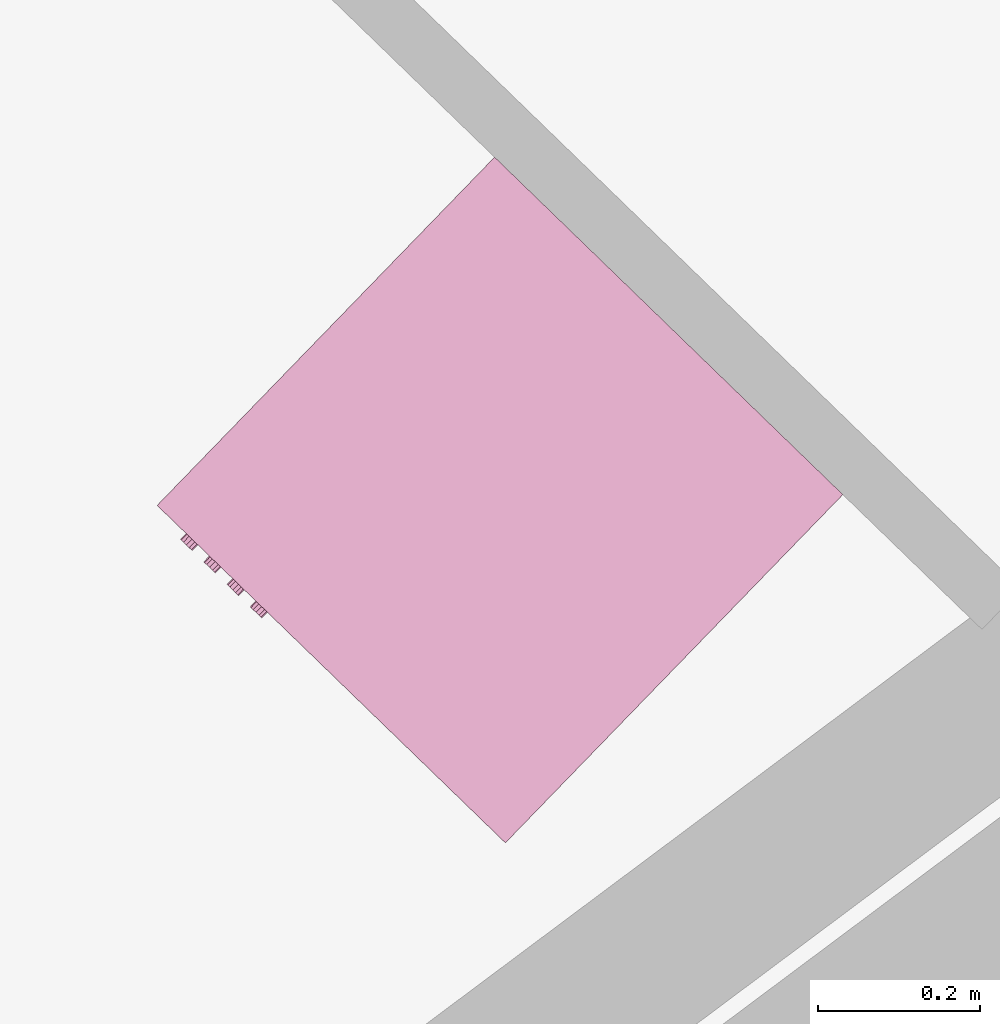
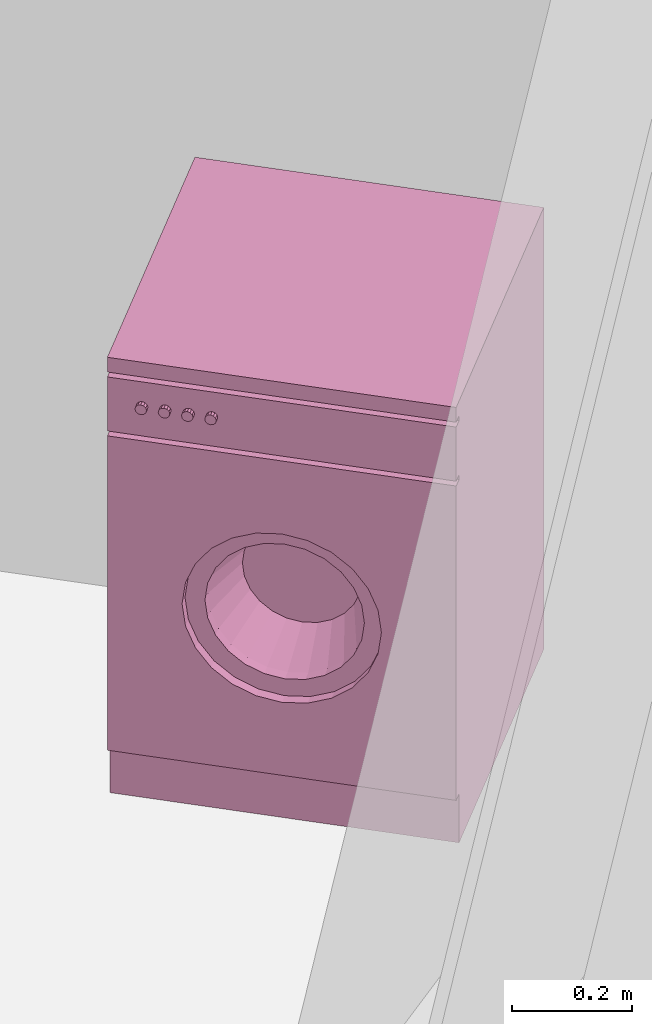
# One storey, part 150 of 195: 1 furnishing.
"""IFC2X3 building model written with IfcOpenShell, lengths in metres."""

from ifc_helpers import new_model, entity, si_unit, converted_unit, derived_unit, money_unit, direction, frame, origin_with_axes, place, context, subcontext, project, spatial, open_shell, faceted_brep, surface_model, source, transform, mapped, type_object, element, save


model = new_model("IFC2X3")

# Units and contexts
model_context = context("Model", 3, precision=1e-05, world=origin_with_axes(), true_north=direction((0.0, 1.0)))
body_context = subcontext(model_context, "Body", "Model", "MODEL_VIEW")
ifc_project = project(units=[si_unit("LENGTHUNIT", "METRE"), si_unit("AREAUNIT", "SQUARE_METRE"), si_unit("VOLUMEUNIT", "CUBIC_METRE"), converted_unit("PLANEANGLEUNIT", "DEGREE", entity("IfcPlaneAngleMeasure", 0.0174532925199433), si_unit("PLANEANGLEUNIT", "RADIAN"), dimensions=[0, 0, 0, 0, 0, 0, 0]), money_unit("CHF"), converted_unit("TIMEUNIT", "Year", entity("IfcTimeMeasure", 31557600.0), si_unit("TIMEUNIT", "SECOND"), dimensions=[0, 0, 1, 0, 0, 0, 0]), si_unit("MASSUNIT", "GRAM", prefix="KILO"), si_unit("THERMODYNAMICTEMPERATUREUNIT", "DEGREE_CELSIUS"), si_unit("LUMINOUSINTENSITYUNIT", "LUMEN"), si_unit("ENERGYUNIT", "JOULE", prefix="MEGA"), derived_unit("THERMALCONDUCTANCEUNIT", [(si_unit("POWERUNIT", "WATT"), 1), (si_unit("LENGTHUNIT", "METRE"), -1), (si_unit("THERMODYNAMICTEMPERATUREUNIT", "KELVIN"), -1)]), derived_unit("SPECIFICHEATCAPACITYUNIT", [(si_unit("ENERGYUNIT", "JOULE"), 1), (si_unit("MASSUNIT", "GRAM", prefix="KILO"), -1), (si_unit("THERMODYNAMICTEMPERATUREUNIT", "KELVIN"), -1)]), derived_unit("MASSDENSITYUNIT", [(si_unit("MASSUNIT", "GRAM", prefix="KILO"), 1), (si_unit("VOLUMEUNIT", "CUBIC_METRE"), -1)])], contexts=[model_context])

# Site, building, storey
site_placement = place(None, origin_with_axes())
site = spatial("IfcSite", under=ifc_project, at=site_placement, Name="Site", CompositionType="ELEMENT")
building_placement = place(site_placement, origin_with_axes())
building = spatial("IfcBuilding", under=site, at=building_placement, Name="Bâtiment", CompositionType="ELEMENT")
storey_placement = place(building_placement, origin_with_axes())
storey = spatial("IfcBuildingStorey", under=building, at=storey_placement, Name="rdc", CompositionType="ELEMENT", Elevation=0.0)

# Furnishing
furnishing_element_type = type_object("IfcFurnishingElementType", Name="Machine à laver")
shared_shape = source(origin_with_axes(), body_context, "Body", "SurfaceModel", [
    faceted_brep([(0.0, 0.02, 0.1), (0.6, 0.02, 0.1), (0.6, 0.0, 0.1), (0.0, 0.0, 0.1), (0.0, 0.02000000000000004, 0.74), (0.6, 0.02000000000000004, 0.74), (0.4714285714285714, 0.02000000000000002, 0.42), (0.4655872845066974, 0.02000000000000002, 0.4643689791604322), (0.448461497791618, 0.02000000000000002, 0.5057142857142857), (0.4212183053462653, 0.02000000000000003, 0.5412183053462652), (0.3857142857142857, 0.02000000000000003, 0.568461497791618), (0.3443689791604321, 0.02000000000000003, 0.5855872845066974), (0.3, 0.02000000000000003, 0.5914285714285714), (0.2556310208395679, 0.02000000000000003, 0.5855872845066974), (0.2142857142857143, 0.02000000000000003, 0.5684614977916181), (0.1787816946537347, 0.02000000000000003, 0.5412183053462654), (0.1515385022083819, 0.02000000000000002, 0.5057142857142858), (0.1344127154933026, 0.02000000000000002, 0.4643689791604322), (0.1285714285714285, 0.02000000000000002, 0.42), (0.1344127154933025, 0.02000000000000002, 0.3756310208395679), (0.1515385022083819, 0.02000000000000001, 0.3342857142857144), (0.1787816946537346, 0.02000000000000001, 0.2987816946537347), (0.2142857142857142, 0.02000000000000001, 0.2715385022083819), (0.2556310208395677, 0.02000000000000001, 0.2544127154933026), (0.2999999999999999, 0.02000000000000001, 0.2485714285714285), (0.344368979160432, 0.02000000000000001, 0.2544127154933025), (0.3857142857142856, 0.02000000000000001, 0.2715385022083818), (0.4212183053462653, 0.02000000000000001, 0.2987816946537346), (0.448461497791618, 0.02000000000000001, 0.3342857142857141), (0.4655872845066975, 0.02000000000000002, 0.3756310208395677), (0.6, 0.0, 0.74), (0.0, 0.0, 0.74), (0.4714285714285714, 0.0, 0.42), (0.4655872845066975, 0.0, 0.3756310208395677), (0.448461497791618, 0.0, 0.3342857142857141), (0.4212183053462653, 0.0, 0.2987816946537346), (0.3857142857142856, 0.0, 0.2715385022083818), (0.344368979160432, 0.0, 0.2544127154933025), (0.2999999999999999, 0.0, 0.2485714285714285), (0.2556310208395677, 0.0, 0.2544127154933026), (0.2142857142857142, 0.0, 0.2715385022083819), (0.1787816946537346, 0.0, 0.2987816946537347), (0.1515385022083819, 0.0, 0.3342857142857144), (0.1344127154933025, 0.0, 0.3756310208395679), (0.1285714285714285, 0.0, 0.42), (0.1344127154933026, 0.0, 0.4643689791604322), (0.1515385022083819, 0.0, 0.5057142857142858), (0.1787816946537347, 0.0, 0.5412183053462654), (0.2142857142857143, 0.0, 0.5684614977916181), (0.2556310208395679, 0.0, 0.5855872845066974), (0.3, 0.0, 0.5914285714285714), (0.3443689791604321, 0.0, 0.5855872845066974), (0.3857142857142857, 0.0, 0.568461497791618), (0.4212183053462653, 0.0, 0.5412183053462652), (0.448461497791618, 0.0, 0.5057142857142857), (0.4655872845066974, 0.0, 0.4643689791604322)], [[[0, 1, 2, 3]], [[0, 4, 5, 1], [6, 7, 8, 9, 10, 11, 12, 13, 14, 15, 16, 17, 18, 19, 20, 21, 22, 23, 24, 25, 26, 27, 28, 29]], [[1, 5, 30, 2]], [[3, 2, 30, 31], [32, 33, 34, 35, 36, 37, 38, 39, 40, 41, 42, 43, 44, 45, 46, 47, 48, 49, 50, 51, 52, 53, 54, 55]], [[4, 0, 3, 31]], [[5, 4, 31, 30]], [[7, 6, 32, 55]], [[8, 7, 55, 54]], [[9, 8, 54, 53]], [[10, 9, 53, 52]], [[11, 10, 52, 51]], [[12, 11, 51, 50]], [[13, 12, 50, 49]], [[14, 13, 49, 48]], [[15, 14, 48, 47]], [[16, 15, 47, 46]], [[17, 16, 46, 45]], [[18, 17, 45, 44]], [[19, 18, 44, 43]], [[20, 19, 43, 42]], [[21, 20, 42, 41]], [[22, 21, 41, 40]], [[23, 22, 40, 39]], [[24, 23, 39, 38]], [[25, 24, 38, 37]], [[26, 25, 37, 36]], [[27, 26, 36, 35]], [[28, 27, 35, 34]], [[29, 28, 34, 33]], [[6, 29, 33, 32]]]),
    faceted_brep([(0.4714285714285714, 0.04000000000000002, 0.42), (0.4655872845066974, 0.04000000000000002, 0.4643689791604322), (0.4655872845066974, 0.02000000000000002, 0.4643689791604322), (0.4714285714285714, 0.02000000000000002, 0.42), (0.4655872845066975, 0.04000000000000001, 0.3756310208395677), (0.448461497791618, 0.04000000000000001, 0.3342857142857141), (0.4212183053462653, 0.04000000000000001, 0.2987816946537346), (0.3857142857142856, 0.04000000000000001, 0.2715385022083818), (0.344368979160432, 0.04000000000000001, 0.2544127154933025), (0.2999999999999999, 0.04000000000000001, 0.2485714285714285), (0.2556310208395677, 0.04000000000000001, 0.2544127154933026), (0.2142857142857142, 0.04000000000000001, 0.2715385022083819), (0.1787816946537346, 0.04000000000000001, 0.2987816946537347), (0.1515385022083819, 0.04000000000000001, 0.3342857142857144), (0.1344127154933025, 0.04000000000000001, 0.3756310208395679), (0.1285714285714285, 0.04000000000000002, 0.42), (0.1344127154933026, 0.04000000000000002, 0.4643689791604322), (0.1515385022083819, 0.04000000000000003, 0.5057142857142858), (0.1787816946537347, 0.04000000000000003, 0.5412183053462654), (0.2142857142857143, 0.04000000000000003, 0.5684614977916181), (0.2556310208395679, 0.04000000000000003, 0.5855872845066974), (0.3, 0.04000000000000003, 0.5914285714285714), (0.3443689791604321, 0.04000000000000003, 0.5855872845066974), (0.3857142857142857, 0.04000000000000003, 0.568461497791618), (0.4212183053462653, 0.04000000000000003, 0.5412183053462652), (0.448461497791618, 0.04000000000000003, 0.5057142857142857), (0.4371428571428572, 0.04000000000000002, 0.42), (0.432469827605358, 0.04000000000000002, 0.4554951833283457), (0.4187691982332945, 0.04000000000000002, 0.4885714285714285), (0.3969746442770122, 0.04000000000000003, 0.5169746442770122), (0.3685714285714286, 0.04000000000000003, 0.5387691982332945), (0.3354951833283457, 0.04000000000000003, 0.552469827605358), (0.3, 0.04000000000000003, 0.5571428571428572), (0.2645048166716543, 0.04000000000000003, 0.552469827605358), (0.2314285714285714, 0.04000000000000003, 0.5387691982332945), (0.2030253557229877, 0.04000000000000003, 0.5169746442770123), (0.1812308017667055, 0.04000000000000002, 0.4885714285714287), (0.167530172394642, 0.04000000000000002, 0.4554951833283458), (0.1628571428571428, 0.04000000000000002, 0.42), (0.167530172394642, 0.04000000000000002, 0.3845048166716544), (0.1812308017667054, 0.04000000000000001, 0.3514285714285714), (0.2030253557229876, 0.04000000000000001, 0.3230253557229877), (0.2314285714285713, 0.04000000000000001, 0.3012308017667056), (0.2645048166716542, 0.04000000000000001, 0.287530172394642), (0.2999999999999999, 0.04000000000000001, 0.2828571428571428), (0.3354951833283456, 0.04000000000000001, 0.287530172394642), (0.3685714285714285, 0.04000000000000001, 0.3012308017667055), (0.3969746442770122, 0.04000000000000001, 0.3230253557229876), (0.4187691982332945, 0.04000000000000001, 0.3514285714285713), (0.432469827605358, 0.04000000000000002, 0.3845048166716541), (0.448461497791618, 0.02000000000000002, 0.5057142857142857), (0.4212183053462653, 0.02000000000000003, 0.5412183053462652), (0.3857142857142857, 0.02000000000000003, 0.568461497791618), (0.3443689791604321, 0.02000000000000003, 0.5855872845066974), (0.3, 0.02000000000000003, 0.5914285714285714), (0.2556310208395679, 0.02000000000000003, 0.5855872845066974), (0.2142857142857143, 0.02000000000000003, 0.5684614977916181), (0.1787816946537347, 0.02000000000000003, 0.5412183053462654), (0.1515385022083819, 0.02000000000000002, 0.5057142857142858), (0.1344127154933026, 0.02000000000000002, 0.4643689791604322), (0.1285714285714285, 0.02000000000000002, 0.42), (0.1344127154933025, 0.02000000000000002, 0.3756310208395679), (0.1515385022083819, 0.02000000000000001, 0.3342857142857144), (0.1787816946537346, 0.02000000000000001, 0.2987816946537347), (0.2142857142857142, 0.02000000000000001, 0.2715385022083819), (0.2556310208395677, 0.02000000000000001, 0.2544127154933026), (0.2999999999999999, 0.02000000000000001, 0.2485714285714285), (0.344368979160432, 0.02000000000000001, 0.2544127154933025), (0.3857142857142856, 0.02000000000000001, 0.2715385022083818), (0.4212183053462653, 0.02000000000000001, 0.2987816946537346), (0.448461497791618, 0.02000000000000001, 0.3342857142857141), (0.4655872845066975, 0.02000000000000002, 0.3756310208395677), (0.4371428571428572, 0.02000000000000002, 0.42), (0.432469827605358, 0.02000000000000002, 0.3845048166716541), (0.4187691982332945, 0.02000000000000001, 0.3514285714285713), (0.3969746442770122, 0.02000000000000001, 0.3230253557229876), (0.3685714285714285, 0.02000000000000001, 0.3012308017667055), (0.3354951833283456, 0.02000000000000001, 0.287530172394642), (0.2999999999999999, 0.02000000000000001, 0.2828571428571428), (0.2645048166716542, 0.02000000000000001, 0.287530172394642), (0.2314285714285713, 0.02000000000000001, 0.3012308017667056), (0.2030253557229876, 0.02000000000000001, 0.3230253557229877), (0.1812308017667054, 0.02000000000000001, 0.3514285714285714), (0.167530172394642, 0.02000000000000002, 0.3845048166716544), (0.1628571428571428, 0.02000000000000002, 0.42), (0.167530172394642, 0.02000000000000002, 0.4554951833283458), (0.1812308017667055, 0.02000000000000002, 0.4885714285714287), (0.2030253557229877, 0.02000000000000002, 0.5169746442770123), (0.2314285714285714, 0.02000000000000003, 0.5387691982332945), (0.2645048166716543, 0.02000000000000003, 0.552469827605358), (0.3, 0.02000000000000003, 0.5571428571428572), (0.3354951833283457, 0.02000000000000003, 0.552469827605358), (0.3685714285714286, 0.02000000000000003, 0.5387691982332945), (0.3969746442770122, 0.02000000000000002, 0.5169746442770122), (0.4187691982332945, 0.02000000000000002, 0.4885714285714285), (0.432469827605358, 0.02000000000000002, 0.4554951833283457)], [[[0, 1, 2, 3]], [[0, 4, 5, 6, 7, 8, 9, 10, 11, 12, 13, 14, 15, 16, 17, 18, 19, 20, 21, 22, 23, 24, 25, 1], [26, 27, 28, 29, 30, 31, 32, 33, 34, 35, 36, 37, 38, 39, 40, 41, 42, 43, 44, 45, 46, 47, 48, 49]], [[1, 25, 50, 2]], [[3, 2, 50, 51, 52, 53, 54, 55, 56, 57, 58, 59, 60, 61, 62, 63, 64, 65, 66, 67, 68, 69, 70, 71], [72, 73, 74, 75, 76, 77, 78, 79, 80, 81, 82, 83, 84, 85, 86, 87, 88, 89, 90, 91, 92, 93, 94, 95]], [[4, 0, 3, 71]], [[5, 4, 71, 70]], [[6, 5, 70, 69]], [[7, 6, 69, 68]], [[8, 7, 68, 67]], [[9, 8, 67, 66]], [[10, 9, 66, 65]], [[11, 10, 65, 64]], [[12, 11, 64, 63]], [[13, 12, 63, 62]], [[14, 13, 62, 61]], [[15, 14, 61, 60]], [[16, 15, 60, 59]], [[17, 16, 59, 58]], [[18, 17, 58, 57]], [[19, 18, 57, 56]], [[20, 19, 56, 55]], [[21, 20, 55, 54]], [[22, 21, 54, 53]], [[23, 22, 53, 52]], [[24, 23, 52, 51]], [[25, 24, 51, 50]], [[27, 26, 72, 95]], [[28, 27, 95, 94]], [[29, 28, 94, 93]], [[30, 29, 93, 92]], [[31, 30, 92, 91]], [[32, 31, 91, 90]], [[33, 32, 90, 89]], [[34, 33, 89, 88]], [[35, 34, 88, 87]], [[36, 35, 87, 86]], [[37, 36, 86, 85]], [[38, 37, 85, 84]], [[39, 38, 84, 83]], [[40, 39, 83, 82]], [[41, 40, 82, 81]], [[42, 41, 81, 80]], [[43, 42, 80, 79]], [[44, 43, 79, 78]], [[45, 44, 78, 77]], [[46, 45, 77, 76]], [[47, 46, 76, 75]], [[48, 47, 75, 74]], [[49, 48, 74, 73]], [[26, 49, 73, 72]]]),
    surface_model("IfcShellBasedSurfaceModel", [(0.2645048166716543, 0.03999999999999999, 0.552469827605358), (0.3, 0.03999999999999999, 0.5571428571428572), (0.3, 0.14, 0.5228571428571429), (0.2733786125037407, 0.14, 0.5193523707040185), (0.3354951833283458, 0.03999999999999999, 0.552469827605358), (0.3266213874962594, 0.14, 0.5193523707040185), (0.3514285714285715, 0.14, 0.5090768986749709), (0.3727309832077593, 0.14, 0.4927309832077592), (0.3890768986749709, 0.14, 0.4714285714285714), (0.3993523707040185, 0.14, 0.4466213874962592), (0.4028571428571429, 0.14, 0.42), (0.3993523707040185, 0.14, 0.3933786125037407), (0.3890768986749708, 0.14, 0.3685714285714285), (0.3727309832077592, 0.14, 0.3472690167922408), (0.3514285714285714, 0.14, 0.3309231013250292), (0.3266213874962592, 0.14, 0.3206476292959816), (0.2999999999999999, 0.14, 0.3171428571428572), (0.2733786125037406, 0.14, 0.3206476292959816), (0.2485714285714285, 0.14, 0.3309231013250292), (0.2272690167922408, 0.14, 0.3472690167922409), (0.2109231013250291, 0.14, 0.3685714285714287), (0.2006476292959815, 0.14, 0.3933786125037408), (0.1971428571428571, 0.14, 0.4200000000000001), (0.2006476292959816, 0.14, 0.4466213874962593), (0.2109231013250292, 0.14, 0.4714285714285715), (0.2272690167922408, 0.14, 0.4927309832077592), (0.2485714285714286, 0.14, 0.5090768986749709), (0.2314285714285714, 0.03999999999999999, 0.5387691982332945), (0.3685714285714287, 0.03999999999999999, 0.5387691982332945), (0.3969746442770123, 0.03999999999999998, 0.5169746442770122), (0.4187691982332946, 0.03999999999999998, 0.4885714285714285), (0.432469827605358, 0.03999999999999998, 0.4554951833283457), (0.4371428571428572, 0.03999999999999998, 0.4199999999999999), (0.432469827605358, 0.03999999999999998, 0.3845048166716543), (0.4187691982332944, 0.03999999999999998, 0.3514285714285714), (0.3969746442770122, 0.03999999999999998, 0.3230253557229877), (0.3685714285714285, 0.03999999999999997, 0.3012308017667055), (0.3354951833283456, 0.03999999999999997, 0.2875301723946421), (0.2999999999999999, 0.03999999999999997, 0.2828571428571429), (0.2645048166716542, 0.03999999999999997, 0.2875301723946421), (0.2314285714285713, 0.03999999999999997, 0.3012308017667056), (0.2030253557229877, 0.03999999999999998, 0.3230253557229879), (0.1812308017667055, 0.03999999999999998, 0.3514285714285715), (0.167530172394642, 0.03999999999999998, 0.3845048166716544), (0.1628571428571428, 0.03999999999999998, 0.4200000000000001), (0.167530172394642, 0.03999999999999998, 0.4554951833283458), (0.1812308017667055, 0.03999999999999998, 0.4885714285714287), (0.2030253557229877, 0.03999999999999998, 0.5169746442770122)], [open_shell([[[0, 1, 2, 3]], [[1, 4, 5, 2]], [[2, 5, 6, 7, 8, 9, 10, 11, 12, 13, 14, 15, 16, 17, 18, 19, 20, 21, 22, 23, 24, 25, 26, 3]], [[27, 0, 3, 26]], [[4, 28, 6, 5]], [[28, 29, 7, 6]], [[29, 30, 8, 7]], [[30, 31, 9, 8]], [[31, 32, 10, 9]], [[32, 33, 11, 10]], [[33, 34, 12, 11]], [[34, 35, 13, 12]], [[35, 36, 14, 13]], [[36, 37, 15, 14]], [[37, 38, 16, 15]], [[38, 39, 17, 16]], [[39, 40, 18, 17]], [[40, 41, 19, 18]], [[41, 42, 20, 19]], [[42, 43, 21, 20]], [[43, 44, 22, 21]], [[44, 45, 23, 22]], [[45, 46, 24, 23]], [[46, 47, 25, 24]], [[47, 27, 26, 25]]])]),
    surface_model("IfcShellBasedSurfaceModel", [(0.0, 0.02, 0.1), (0.0, 0.02000000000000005, 0.87), (0.0, 0.6, 0.87), (0.0, 0.6, 0.09999999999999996)], [open_shell([[[0, 1, 2, 3]]])]),
    surface_model("IfcShellBasedSurfaceModel", [(0.6, 0.01999999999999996, 0.1), (0.6, 0.02000000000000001, 0.87), (0.6, 0.5999999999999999, 0.87), (0.6, 0.5999999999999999, 0.09999999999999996)], [open_shell([[[0, 1, 2, 3]]])]),
    surface_model("IfcShellBasedSurfaceModel", [(0.0, 0.6, 0.1), (0.0, 0.6, 0.87), (0.6, 0.6, 0.87), (0.6, 0.6, 0.1)], [open_shell([[[0, 1, 2, 3]]])]),
    faceted_brep([(0.0, 0.02, 0.0), (0.6, 0.02, 0.0), (0.6, 0.02, 0.1), (0.0, 0.02, 0.1), (0.0, 0.6, 0.0), (0.6, 0.6, 0.0), (0.6, 0.6, 0.1), (0.0, 0.6, 0.1)], [[[0, 1, 2, 3]], [[0, 4, 5, 1]], [[1, 5, 6, 2]], [[3, 2, 6, 7]], [[4, 0, 3, 7]], [[5, 4, 7, 6]]]),
    faceted_brep([(0.0, 0.02, 0.75), (0.6, 0.02, 0.75), (0.6, 0.0, 0.75), (0.0, 0.0, 0.75), (0.0, 0.02000000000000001, 0.86), (0.6, 0.02000000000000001, 0.86), (0.6, 0.0, 0.86), (0.0, 0.0, 0.86)], [[[0, 1, 2, 3]], [[0, 4, 5, 1]], [[1, 5, 6, 2]], [[3, 2, 6, 7]], [[4, 0, 3, 7]], [[5, 4, 7, 6]]]),
    surface_model("IfcShellBasedSurfaceModel", [(0.0, 0.02, 0.74), (0.0, 0.02000000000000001, 0.87), (0.6, 0.02000000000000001, 0.87), (0.6, 0.02, 0.74)], [open_shell([[[0, 1, 2, 3]]])]),
    faceted_brep([(0.0, 0.0, 0.87), (0.6, 0.0, 0.87), (0.6, 0.0, 0.9), (0.0, 0.0, 0.9), (0.0, 0.6, 0.87), (0.6, 0.6, 0.87), (0.6, 0.6, 0.9), (0.0, 0.6, 0.9)], [[[0, 1, 2, 3]], [[0, 4, 5, 1]], [[1, 5, 6, 2]], [[3, 2, 6, 7]], [[4, 0, 3, 7]], [[5, 4, 7, 6]]]),
    faceted_brep([(0.06866025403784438, 0.0, 0.8049999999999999), (0.06499999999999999, 0.0, 0.8013397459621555), (0.05999999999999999, 0.0, 0.7999999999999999), (0.05499999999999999, 0.0, 0.8013397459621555), (0.05133974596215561, 0.0, 0.8049999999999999), (0.05, 0.0, 0.8099999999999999), (0.05133974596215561, 0.0, 0.815), (0.055, 0.0, 0.8186602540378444), (0.06, 0.0, 0.82), (0.065, 0.0, 0.8186602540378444), (0.06866025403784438, 0.0, 0.815), (0.06999999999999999, 0.0, 0.8099999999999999), (0.06866025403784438, -0.01, 0.8049999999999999), (0.06499999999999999, -0.01, 0.8013397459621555), (0.05999999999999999, -0.01, 0.7999999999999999), (0.05499999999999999, -0.01, 0.8013397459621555), (0.05133974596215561, -0.01, 0.8049999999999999), (0.05, -0.01, 0.8099999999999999), (0.05133974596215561, -0.01, 0.815), (0.055, -0.01, 0.8186602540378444), (0.06, -0.01, 0.82), (0.065, -0.01, 0.8186602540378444), (0.06866025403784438, -0.01, 0.815), (0.06999999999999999, -0.01, 0.8099999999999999)], [[[0, 1, 2, 3, 4, 5, 6, 7, 8, 9, 10, 11]], [[1, 0, 12, 13]], [[2, 1, 13, 14]], [[3, 2, 14, 15]], [[4, 3, 15, 16]], [[5, 4, 16, 17]], [[6, 5, 17, 18]], [[7, 6, 18, 19]], [[8, 7, 19, 20]], [[9, 8, 20, 21]], [[10, 9, 21, 22]], [[11, 10, 22, 23]], [[0, 11, 23, 12]], [[12, 23, 22, 21, 20, 19, 18, 17, 16, 15, 14, 13]]]),
    faceted_brep([(0.1086602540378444, 0.0, 0.8049999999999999), (0.105, 0.0, 0.8013397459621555), (0.09999999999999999, 0.0, 0.7999999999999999), (0.095, 0.0, 0.8013397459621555), (0.09133974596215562, 0.0, 0.8049999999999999), (0.09000000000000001, 0.0, 0.8099999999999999), (0.09133974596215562, 0.0, 0.815), (0.095, 0.0, 0.8186602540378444), (0.1, 0.0, 0.82), (0.105, 0.0, 0.8186602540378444), (0.1086602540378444, 0.0, 0.815), (0.11, 0.0, 0.8099999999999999), (0.1086602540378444, -0.01, 0.8049999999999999), (0.105, -0.01, 0.8013397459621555), (0.09999999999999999, -0.01, 0.7999999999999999), (0.095, -0.01, 0.8013397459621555), (0.09133974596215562, -0.01, 0.8049999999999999), (0.09000000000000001, -0.01, 0.8099999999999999), (0.09133974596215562, -0.01, 0.815), (0.095, -0.01, 0.8186602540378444), (0.1, -0.01, 0.82), (0.105, -0.01, 0.8186602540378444), (0.1086602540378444, -0.01, 0.815), (0.11, -0.01, 0.8099999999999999)], [[[0, 1, 2, 3, 4, 5, 6, 7, 8, 9, 10, 11]], [[1, 0, 12, 13]], [[2, 1, 13, 14]], [[3, 2, 14, 15]], [[4, 3, 15, 16]], [[5, 4, 16, 17]], [[6, 5, 17, 18]], [[7, 6, 18, 19]], [[8, 7, 19, 20]], [[9, 8, 20, 21]], [[10, 9, 21, 22]], [[11, 10, 22, 23]], [[0, 11, 23, 12]], [[12, 23, 22, 21, 20, 19, 18, 17, 16, 15, 14, 13]]]),
    faceted_brep([(0.1486602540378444, 0.0, 0.8049999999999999), (0.145, 0.0, 0.8013397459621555), (0.14, 0.0, 0.7999999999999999), (0.135, 0.0, 0.8013397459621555), (0.1313397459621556, 0.0, 0.8049999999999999), (0.13, 0.0, 0.8099999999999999), (0.1313397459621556, 0.0, 0.815), (0.135, 0.0, 0.8186602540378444), (0.14, 0.0, 0.82), (0.145, 0.0, 0.8186602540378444), (0.1486602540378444, 0.0, 0.815), (0.15, 0.0, 0.8099999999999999), (0.1486602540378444, -0.01, 0.8049999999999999), (0.145, -0.01, 0.8013397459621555), (0.14, -0.01, 0.7999999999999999), (0.135, -0.01, 0.8013397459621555), (0.1313397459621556, -0.01, 0.8049999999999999), (0.13, -0.01, 0.8099999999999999), (0.1313397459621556, -0.01, 0.815), (0.135, -0.01, 0.8186602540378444), (0.14, -0.01, 0.82), (0.145, -0.01, 0.8186602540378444), (0.1486602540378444, -0.01, 0.815), (0.15, -0.01, 0.8099999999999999)], [[[0, 1, 2, 3, 4, 5, 6, 7, 8, 9, 10, 11]], [[1, 0, 12, 13]], [[2, 1, 13, 14]], [[3, 2, 14, 15]], [[4, 3, 15, 16]], [[5, 4, 16, 17]], [[6, 5, 17, 18]], [[7, 6, 18, 19]], [[8, 7, 19, 20]], [[9, 8, 20, 21]], [[10, 9, 21, 22]], [[11, 10, 22, 23]], [[0, 11, 23, 12]], [[12, 23, 22, 21, 20, 19, 18, 17, 16, 15, 14, 13]]]),
    faceted_brep([(0.1886602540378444, 0.0, 0.8049999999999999), (0.185, 0.0, 0.8013397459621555), (0.18, 0.0, 0.7999999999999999), (0.175, 0.0, 0.8013397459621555), (0.1713397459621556, 0.0, 0.8049999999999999), (0.17, 0.0, 0.8099999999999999), (0.1713397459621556, 0.0, 0.815), (0.175, 0.0, 0.8186602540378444), (0.18, 0.0, 0.82), (0.185, 0.0, 0.8186602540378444), (0.1886602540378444, 0.0, 0.815), (0.19, 0.0, 0.8099999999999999), (0.1886602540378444, -0.01, 0.8049999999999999), (0.185, -0.01, 0.8013397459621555), (0.18, -0.01, 0.7999999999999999), (0.175, -0.01, 0.8013397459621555), (0.1713397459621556, -0.01, 0.8049999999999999), (0.17, -0.01, 0.8099999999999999), (0.1713397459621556, -0.01, 0.815), (0.175, -0.01, 0.8186602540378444), (0.18, -0.01, 0.82), (0.185, -0.01, 0.8186602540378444), (0.1886602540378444, -0.01, 0.815), (0.19, -0.01, 0.8099999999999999)], [[[0, 1, 2, 3, 4, 5, 6, 7, 8, 9, 10, 11]], [[1, 0, 12, 13]], [[2, 1, 13, 14]], [[3, 2, 14, 15]], [[4, 3, 15, 16]], [[5, 4, 16, 17]], [[6, 5, 17, 18]], [[7, 6, 18, 19]], [[8, 7, 19, 20]], [[9, 8, 20, 21]], [[10, 9, 21, 22]], [[11, 10, 22, 23]], [[0, 11, 23, 12]], [[12, 23, 22, 21, 20, 19, 18, 17, 16, 15, 14, 13]]]),
])
furnishing_placement = place(storey_placement, frame((9535.300790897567, -1070.209211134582, 57.7), z_axis=(0.0, 0.0, 1.0), x_axis=(0.7181763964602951, -0.6958610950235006, 0.0)))
element("IfcFurnishingElement", 1, at=furnishing_placement, inside=storey, type_object=furnishing_element_type, Name="Obj.-019", context=body_context, shape_type="MappedRepresentation", body=[
    mapped(shared_shape, transform((0.0, 0.0, 0.0))),
])

save(model, "model.ifc")
